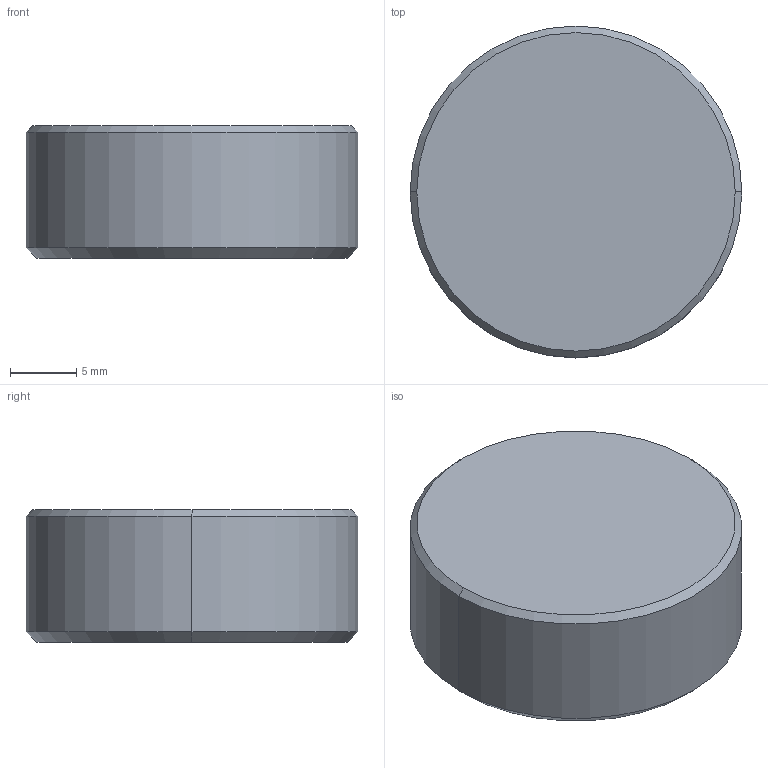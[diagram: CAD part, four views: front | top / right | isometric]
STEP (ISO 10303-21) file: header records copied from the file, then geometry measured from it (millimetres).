
FILE_DESCRIPTION (( 'STEP AP203' ), '1' );
FILE_NAME ('srp-250.STEP', '2021-10-25T04:29:09', ( '' ), ( '' ), 'SwSTEP 2.0', 'SolidWorks 2020', '' );
FILE_SCHEMA (( 'CONFIG_CONTROL_DESIGN' ));
Length unit declared in the file: millimetre
Products named in the file (1): srp-250
Bounding box: 25 x 25 x 10 mm (x, y, z)
Volume: 4733.1 mm3; surface area: 1800.4 mm2
Topology: 1 solids, 1 shells, 11 faces, 20 edges, 12 vertices
Faces by surface type: cone 4, cylinder 4, plane 3
Entity records: 351 total; most frequent: DIRECTION 56, CARTESIAN_POINT 44, ORIENTED_EDGE 40, AXIS2_PLACEMENT_3D 24, EDGE_CURVE 20, CIRCLE 12, EDGE_LOOP 12, VERTEX_POINT 12
